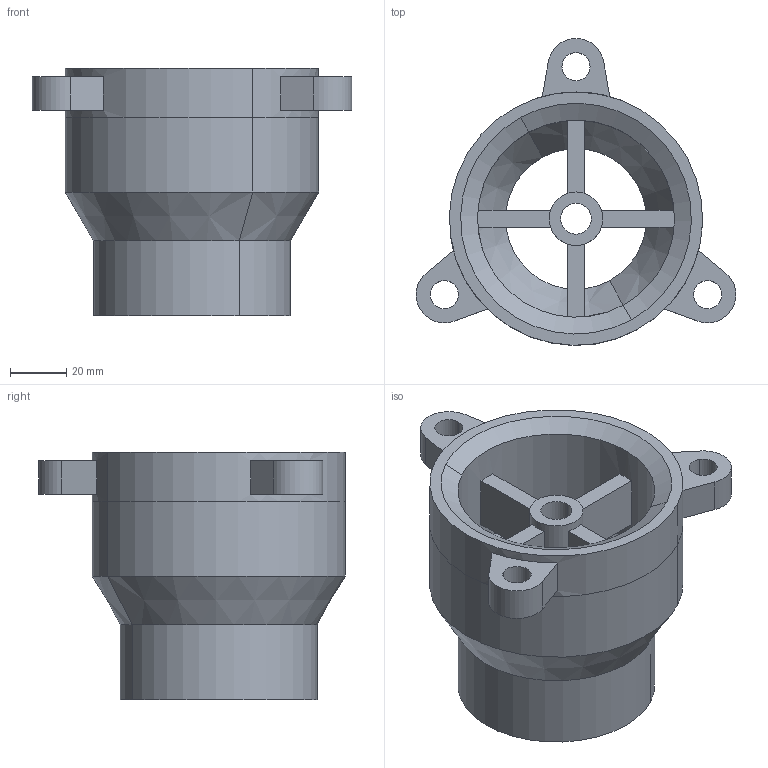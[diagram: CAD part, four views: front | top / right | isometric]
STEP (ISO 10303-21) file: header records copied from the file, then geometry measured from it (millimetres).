
FILE_DESCRIPTION(('CATIA V5 STEP Exchange'),'2;1');
FILE_NAME('C:\Users\Cata\Desktop\3.stp','2023-12-20T18:16:02+00:00',('none'),('none'),'CATIA Version 5 Release 20 GA (IN-10)','CATIA V5 STEP AP203','none');
FILE_SCHEMA(('CONFIG_CONTROL_DESIGN'));
Length unit declared in the file: millimetre
Products named in the file (1): Part1
Bounding box: 113.53 x 108.99 x 88 mm (x, y, z)
Volume: 228359.9 mm3; surface area: 55526.9 mm2
Topology: 1 solids, 1 shells, 61 faces, 156 edges, 100 vertices
Faces by surface type: plane 32, cylinder 23, cone 6
Entity records: 1728 total; most frequent: ORIENTED_EDGE 312, CARTESIAN_POINT 290, DIRECTION 222, EDGE_CURVE 156, AXIS2_PLACEMENT_3D 106, VERTEX_POINT 100, VECTOR 84, LINE 84
